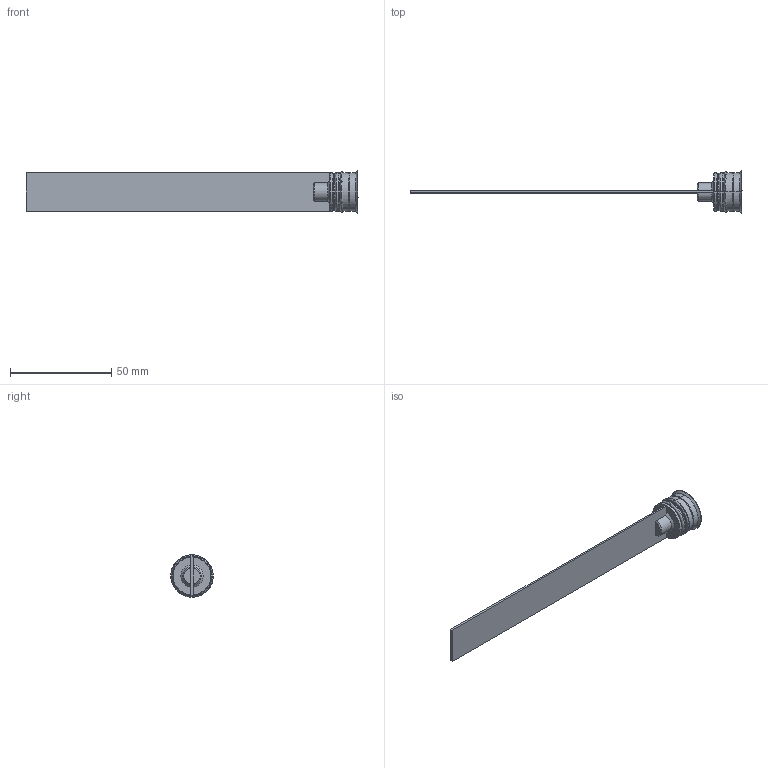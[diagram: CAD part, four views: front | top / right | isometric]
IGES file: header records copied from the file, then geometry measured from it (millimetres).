
Start section: START RECORD GO HERE.
Global section: file name: RL-19Fx150.igs; native system: DASSAULT SYSTEMES CATIA V5 R20 - www.3ds.com; preprocessor: CATIA Version 5 Release 20 ; author: Utente; organization: NB04-ASUS; date: 20210303.200604; units: millimetre
Bounding box: 164 x 21 x 21 mm (x, y, z)
Surface area: 8188.9 mm2 (no closed solid volume)
Topology: 0 solids, 0 shells, 77 faces, 428 edges, 428 vertices
Faces by surface type: revolution 46, plane 31
